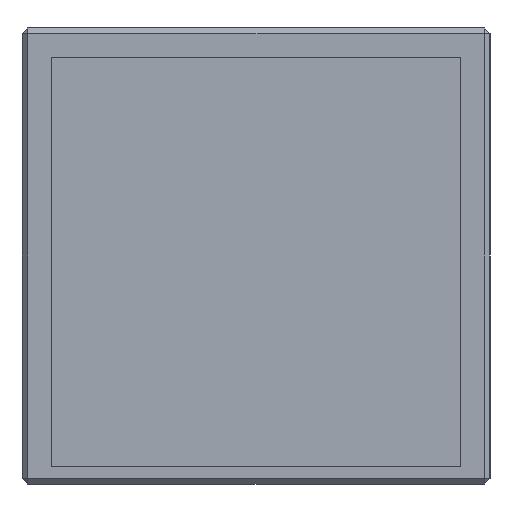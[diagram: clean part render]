
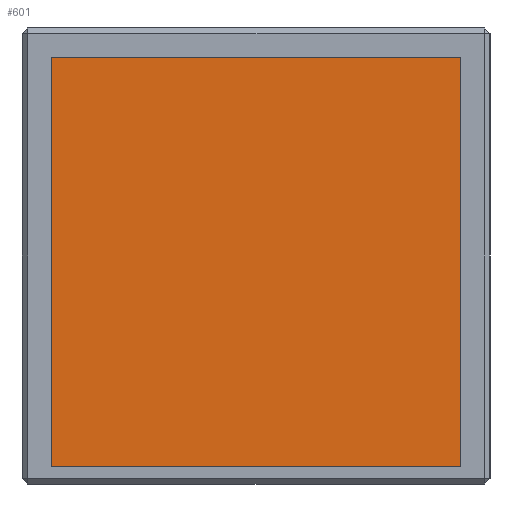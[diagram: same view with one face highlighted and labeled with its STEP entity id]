
A CAD part, left-side view. The second image highlights one B-rep face of the part: STEP entity #601.
In plain terms, the highlighted planar face has unit normal (-1, 0, 0).
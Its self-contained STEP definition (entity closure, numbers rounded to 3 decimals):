
#16 = VERTEX_POINT ( 'NONE', #1078 ) ;
#113 = ORIENTED_EDGE ( 'NONE', *, *, #1344, .T. ) ;
#114 = ORIENTED_EDGE ( 'NONE', *, *, #1405, .T. ) ;
#138 = VECTOR ( 'NONE', #1133, 1000. ) ;
#149 = DIRECTION ( 'NONE',  ( -1., 0., 0. ) ) ;
#202 = VECTOR ( 'NONE', #317, 1000. ) ;
#213 = CARTESIAN_POINT ( 'NONE',  ( -50.5, -35., 73. ) ) ;
#260 = PLANE ( 'NONE',  #845 ) ;
#271 = CARTESIAN_POINT ( 'NONE',  ( -50.5, 35., 3. ) ) ;
#273 = VERTEX_POINT ( 'NONE', #293 ) ;
#293 = CARTESIAN_POINT ( 'NONE',  ( -50.5, 35., 73. ) ) ;
#309 = VERTEX_POINT ( 'NONE', #1054 ) ;
#317 = DIRECTION ( 'NONE',  ( 0., 0., 1. ) ) ;
#320 = LINE ( 'NONE', #1248, #430 ) ;
#412 = LINE ( 'NONE', #271, #138 ) ;
#430 = VECTOR ( 'NONE', #843, 1000. ) ;
#440 = EDGE_CURVE ( 'NONE', #309, #883, #1103, .T. ) ;
#494 = EDGE_LOOP ( 'NONE', ( #496, #1198, #114, #113 ) ) ;
#496 = ORIENTED_EDGE ( 'NONE', *, *, #918, .T. ) ;
#601 = ADVANCED_FACE ( 'NONE', ( #1449 ), #260, .T. ) ;
#773 = LINE ( 'NONE', #1169, #1548 ) ;
#782 = DIRECTION ( 'NONE',  ( 0., 1., 0. ) ) ;
#807 = CARTESIAN_POINT ( 'NONE',  ( -50.5, -35., 3. ) ) ;
#843 = DIRECTION ( 'NONE',  ( 0., -1., 0. ) ) ;
#845 = AXIS2_PLACEMENT_3D ( 'NONE', #858, #149, #1240 ) ;
#858 = CARTESIAN_POINT ( 'NONE',  ( -50.5, 0., 0. ) ) ;
#883 = VERTEX_POINT ( 'NONE', #213 ) ;
#918 = EDGE_CURVE ( 'NONE', #16, #309, #320, .T. ) ;
#1054 = CARTESIAN_POINT ( 'NONE',  ( -50.5, -35., 3. ) ) ;
#1078 = CARTESIAN_POINT ( 'NONE',  ( -50.5, 35., 3. ) ) ;
#1103 = LINE ( 'NONE', #807, #202 ) ;
#1133 = DIRECTION ( 'NONE',  ( 0., 0., -1. ) ) ;
#1169 = CARTESIAN_POINT ( 'NONE',  ( -50.5, 35., 73. ) ) ;
#1198 = ORIENTED_EDGE ( 'NONE', *, *, #440, .T. ) ;
#1240 = DIRECTION ( 'NONE',  ( 0., -1., 0. ) ) ;
#1248 = CARTESIAN_POINT ( 'NONE',  ( -50.5, 35., 3. ) ) ;
#1344 = EDGE_CURVE ( 'NONE', #273, #16, #412, .T. ) ;
#1405 = EDGE_CURVE ( 'NONE', #883, #273, #773, .T. ) ;
#1449 = FACE_OUTER_BOUND ( 'NONE', #494, .T. ) ;
#1548 = VECTOR ( 'NONE', #782, 1000. ) ;
